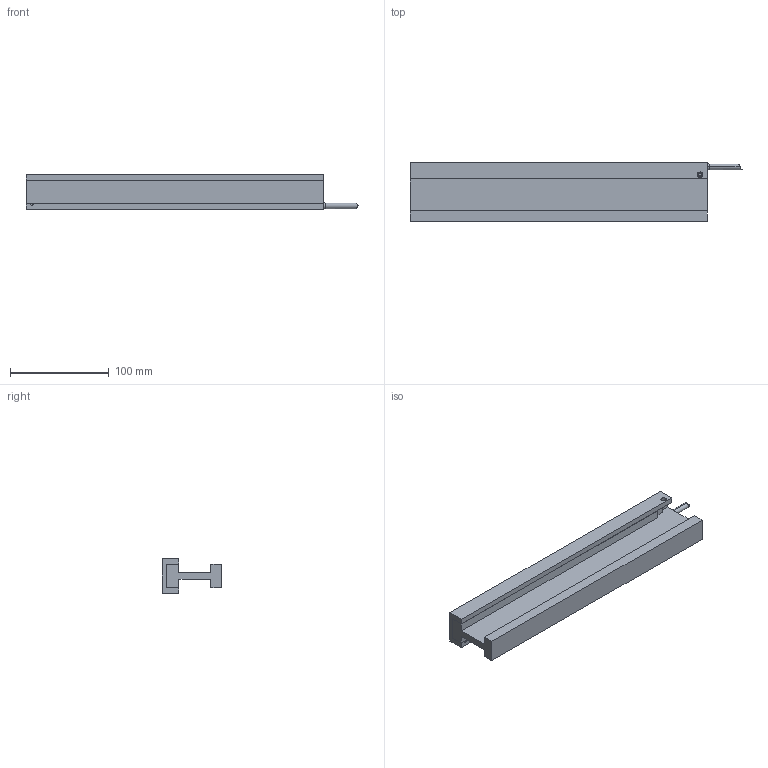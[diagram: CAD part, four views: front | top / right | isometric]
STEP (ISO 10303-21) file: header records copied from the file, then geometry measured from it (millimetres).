
FILE_DESCRIPTION (( 'STEP AP214' ), '1' );
FILE_NAME ('DX30F-C5-NH -REV.step', '2022-05-06T02:56:55', ( '' ), ( '' ), 'SwSTEP 2.0', 'SolidWorks 2020', '' );
FILE_SCHEMA (( 'AUTOMOTIVE_DESIGN' ));
Length unit declared in the file: millimetre
Products named in the file (1): DX30F-C5-NH -REV
Bounding box: 336 x 60 x 35 mm (x, y, z)
Volume: 318509.1 mm3; surface area: 100563.3 mm2
Topology: 3 solids, 4 shells, 141 faces, 350 edges, 197 vertices
Faces by surface type: cylinder 57, cone 42, plane 40, torus 2
Entity records: 5462 total; most frequent: DIRECTION 698, CARTESIAN_POINT 674, ORIENTED_EDGE 616, EDGE_CURVE 308, AXIS2_PLACEMENT_3D 257, VERTEX_POINT 197, VECTOR 184, LINE 184
